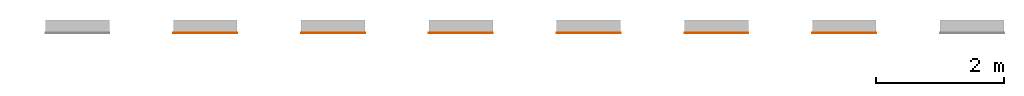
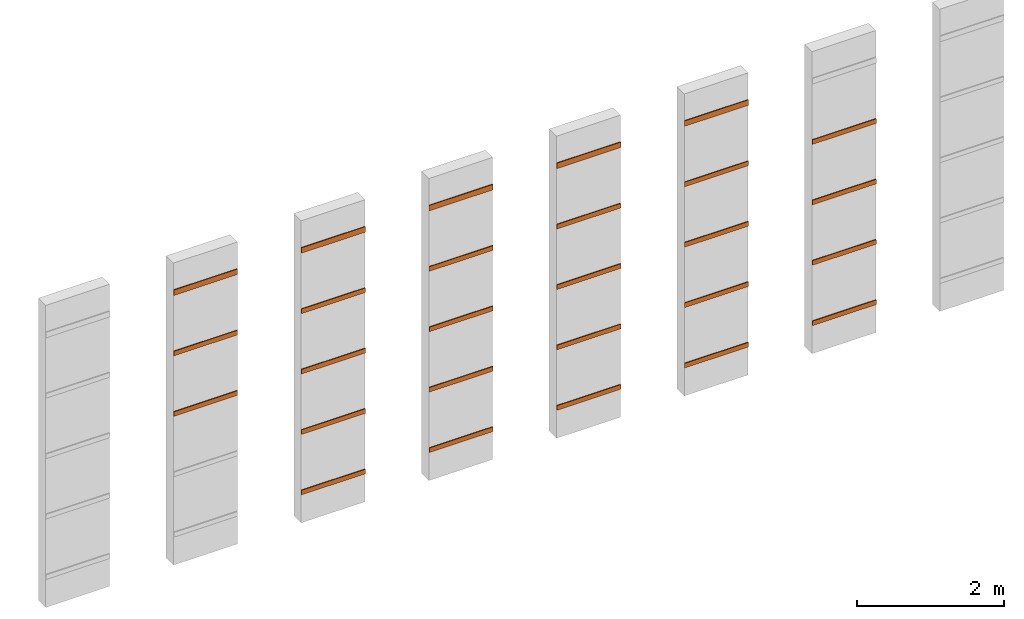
# One storey, part 3 of 4: 27 proxies.
"""IFC2X3 building model written with IfcOpenShell, lengths in millimetres."""

from ifc_helpers import new_model, entity, si_unit, converted_unit, derived_unit, direction, frame, frame_2d, origin, place, context, subcontext, project, spatial, polyline, circle_curve, parameter, trimmed, segment, composite_curve, outline, extrude, type_object, element, save


model = new_model("IFC2X3")

# Units and contexts
model_context = context("Model", 3, precision=0.01, world=origin(), true_north=direction((6.12303176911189e-17, 1.0)))
body_context = subcontext(model_context, "Body", "Model", "MODEL_VIEW")
ifc_project = project(units=[si_unit("LENGTHUNIT", "METRE", prefix="MILLI"), si_unit("AREAUNIT", "SQUARE_METRE"), si_unit("VOLUMEUNIT", "CUBIC_METRE"), converted_unit("PLANEANGLEUNIT", "DEGREE", entity("IfcRatioMeasure", 0.0174532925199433), si_unit("PLANEANGLEUNIT", "RADIAN"), dimensions=[0, 0, 0, 0, 0, 0, 0]), si_unit("MASSUNIT", "GRAM", prefix="KILO"), derived_unit("MASSDENSITYUNIT", [(si_unit("MASSUNIT", "GRAM", prefix="KILO"), 1), (si_unit("LENGTHUNIT", "METRE"), -3)]), derived_unit("MOMENTOFINERTIAUNIT", [(si_unit("LENGTHUNIT", "METRE"), 4)]), si_unit("TIMEUNIT", "SECOND"), si_unit("FREQUENCYUNIT", "HERTZ"), si_unit("THERMODYNAMICTEMPERATUREUNIT", "DEGREE_CELSIUS"), derived_unit("THERMALTRANSMITTANCEUNIT", [(si_unit("MASSUNIT", "GRAM", prefix="KILO"), 1), (si_unit("THERMODYNAMICTEMPERATUREUNIT", "KELVIN"), -1), (si_unit("TIMEUNIT", "SECOND"), -3)]), derived_unit("VOLUMETRICFLOWRATEUNIT", [(si_unit("LENGTHUNIT", "METRE"), 3), (si_unit("TIMEUNIT", "SECOND"), -1)]), si_unit("ELECTRICCURRENTUNIT", "AMPERE"), si_unit("ELECTRICVOLTAGEUNIT", "VOLT"), si_unit("POWERUNIT", "WATT"), si_unit("FORCEUNIT", "NEWTON", prefix="KILO"), si_unit("ILLUMINANCEUNIT", "LUX"), si_unit("LUMINOUSFLUXUNIT", "LUMEN"), si_unit("LUMINOUSINTENSITYUNIT", "CANDELA"), derived_unit("USERDEFINED", [(si_unit("MASSUNIT", "GRAM", prefix="KILO"), -1), (si_unit("LENGTHUNIT", "METRE"), -2), (si_unit("TIMEUNIT", "SECOND"), 3), (si_unit("LUMINOUSFLUXUNIT", "LUMEN"), 1)]), derived_unit("LINEARVELOCITYUNIT", [(si_unit("LENGTHUNIT", "METRE"), 1), (si_unit("TIMEUNIT", "SECOND"), -1)]), si_unit("PRESSUREUNIT", "PASCAL"), derived_unit("USERDEFINED", [(si_unit("LENGTHUNIT", "METRE"), -2), (si_unit("MASSUNIT", "GRAM", prefix="KILO"), 1), (si_unit("TIMEUNIT", "SECOND"), -2)]), derived_unit("LINEARFORCEUNIT", [(si_unit("MASSUNIT", "GRAM", prefix="KILO"), 1), (si_unit("LENGTHUNIT", "METRE"), 1), (si_unit("TIMEUNIT", "SECOND"), -2), (si_unit("LENGTHUNIT", "METRE"), -1)]), derived_unit("PLANARFORCEUNIT", [(si_unit("MASSUNIT", "GRAM", prefix="KILO"), 1), (si_unit("LENGTHUNIT", "METRE"), 1), (si_unit("TIMEUNIT", "SECOND"), -2), (si_unit("LENGTHUNIT", "METRE"), -2)])], contexts=[model_context])

# Site, building, storey
site_placement = place(None, origin())
site = spatial("IfcSite", under=ifc_project, at=site_placement, Name="Default", CompositionType="ELEMENT")
building_placement = place(site_placement, origin())
building = spatial("IfcBuilding", under=site, at=building_placement, CompositionType="ELEMENT")
storey_placement = place(building_placement, origin())
storey = spatial("IfcBuildingStorey", under=building, at=storey_placement, Name="Level 1", CompositionType="ELEMENT", Elevation=0.0)

# Proxies
building_element_proxy_type_1 = type_object("IfcBuildingElementProxyType", Name="Wall Sweep:REVIGRÉS-OMNISTONE-RB-8X90-SOFT-IRON", PredefinedType="NOTDEFINED")
proxy_1_placement = place(storey_placement, origin())
element("IfcBuildingElementProxy", 1, at=proxy_1_placement, inside=storey, type_object=building_element_proxy_type_1, Name="Wall Sweep:REVIGRÉS-OMNISTONE-RB-8X90-SOFT-IRON", ObjectType="Wall Sweep:REVIGRÉS-OMNISTONE-RB-8X90-SOFT-IRON", context=body_context, shape_type="SweptSolid", body=[
    extrude(outline(composite_curve([segment(polyline([(-37.3750000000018, -5.25), (42.625, -5.25)]), True, "CONTINUOUS"), segment(trimmed(circle_curve(frame_2d((32.125, -5.25), x_axis=(0.0, 1.0)), 10.4999999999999), [parameter(270.0)], [parameter(0.0)], True, "PARAMETER"), True, "CONTINUOUS"), segment(polyline([(32.125, 5.25), (-37.3750000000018, 5.25)]), True, "CONTINUOUS"), segment(polyline([(-37.3750000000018, 5.25), (-37.3750000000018, -5.25)]), True, "CONTINUOUS")], self_intersect=False)), frame((15592.0023157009, -6978.36532249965, -15492.2307204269), z_axis=(1.0, 0.0, 0.0), x_axis=(0.0, 0.0, 1.0)), (0.0, 0.0, 1.0), 1000.0),
])
building_element_proxy_type_2 = type_object("IfcBuildingElementProxyType", Name="Wall Sweep:REVIGRÉS-OMNISTONE-RB-8X120-SOFT-IRON", PredefinedType="NOTDEFINED")
proxy_2_placement = place(storey_placement, origin())
element("IfcBuildingElementProxy", 2, at=proxy_2_placement, inside=storey, type_object=building_element_proxy_type_2, Name="Wall Sweep:REVIGRÉS-OMNISTONE-RB-8X120-SOFT-IRON", ObjectType="Wall Sweep:REVIGRÉS-OMNISTONE-RB-8X120-SOFT-IRON", context=body_context, shape_type="SweptSolid", body=[
    extrude(outline(composite_curve([segment(polyline([(-37.5499999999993, -4.90000000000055), (42.4500000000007, -4.90000000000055)]), True, "CONTINUOUS"), segment(trimmed(circle_curve(frame_2d((32.6499999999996, -4.90000000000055), x_axis=(0.0, 1.0)), 9.79999999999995), [parameter(270.0)], [parameter(0.0)], True, "PARAMETER"), True, "CONTINUOUS"), segment(polyline([(32.6499999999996, 4.89999999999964), (-37.5499999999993, 4.89999999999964)]), True, "CONTINUOUS"), segment(polyline([(-37.5499999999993, 4.89999999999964), (-37.5499999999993, -4.90000000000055)]), True, "CONTINUOUS")], self_intersect=False)), frame((15592.0023157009, -6978.01532249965, -14492.0557204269), z_axis=(1.0, 0.0, 0.0), x_axis=(0.0, 0.0, 1.0)), (0.0, 0.0, 1.0), 1000.0),
])
building_element_proxy_type_3 = type_object("IfcBuildingElementProxyType", Name="Wall Sweep:REVIGRÉS-OMNISTONE-RB-9.5X30-SOFT-IRON", PredefinedType="NOTDEFINED")
proxy_3_placement = place(storey_placement, origin())
element("IfcBuildingElementProxy", 3, at=proxy_3_placement, inside=storey, type_object=building_element_proxy_type_3, Name="Wall Sweep:REVIGRÉS-OMNISTONE-RB-9.5X30-SOFT-IRON", ObjectType="Wall Sweep:REVIGRÉS-OMNISTONE-RB-9.5X30-SOFT-IRON", context=body_context, shape_type="SweptSolid", body=[
    extrude(outline(composite_curve([segment(polyline([(-45.0499999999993, -4.90000000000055), (49.9500000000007, -4.90000000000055)]), True, "CONTINUOUS"), segment(trimmed(circle_curve(frame_2d((40.1499999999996, -4.90000000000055), x_axis=(0.0, 1.0)), 9.79999999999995), [parameter(270.0)], [parameter(0.0)], True, "PARAMETER"), True, "CONTINUOUS"), segment(polyline([(40.1499999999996, 4.89999999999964), (-45.0499999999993, 4.89999999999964)]), True, "CONTINUOUS"), segment(polyline([(-45.0499999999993, 4.89999999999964), (-45.0499999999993, -4.90000000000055)]), True, "CONTINUOUS")], self_intersect=False)), frame((15592.0023157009, -6978.01532249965, -13484.5557204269), z_axis=(1.0, 0.0, 0.0), x_axis=(0.0, 0.0, 1.0)), (0.0, 0.0, 1.0), 1000.0),
])
building_element_proxy_type_4 = type_object("IfcBuildingElementProxyType", Name="Wall Sweep:REVIGRÉS-OMNISTONE-RB-8X45-MATTRECT-JET", PredefinedType="NOTDEFINED")
proxy_4_placement = place(storey_placement, origin())
element("IfcBuildingElementProxy", 4, at=proxy_4_placement, inside=storey, type_object=building_element_proxy_type_4, Name="Wall Sweep:REVIGRÉS-OMNISTONE-RB-8X45-MATTRECT-JET", ObjectType="Wall Sweep:REVIGRÉS-OMNISTONE-RB-8X45-MATTRECT-JET", context=body_context, shape_type="SweptSolid", body=[
    extrude(outline(composite_curve([segment(polyline([(-37.375, -5.25), (42.6250000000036, -5.25)]), True, "CONTINUOUS"), segment(trimmed(circle_curve(frame_2d((32.1250000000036, -5.25), x_axis=(0.0, 1.0)), 10.4999999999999), [parameter(270.0)], [parameter(0.0)], True, "PARAMETER"), True, "CONTINUOUS"), segment(polyline([(32.1250000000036, 5.25), (-37.375, 5.25)]), True, "CONTINUOUS"), segment(polyline([(-37.375, 5.25), (-37.375, -5.25)]), True, "CONTINUOUS")], self_intersect=False)), frame((17592.0023157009, -6978.36532249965, -17492.2307204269), z_axis=(1.0, 0.0, 0.0), x_axis=(0.0, 0.0, 1.0)), (0.0, 0.0, 1.0), 1000.0),
])
building_element_proxy_type_5 = type_object("IfcBuildingElementProxyType", Name="Wall Sweep:REVIGRÉS-OMNISTONE-RB-8X60-MATTRECT-JET", PredefinedType="NOTDEFINED")
proxy_5_placement = place(storey_placement, origin())
element("IfcBuildingElementProxy", 5, at=proxy_5_placement, inside=storey, type_object=building_element_proxy_type_5, Name="Wall Sweep:REVIGRÉS-OMNISTONE-RB-8X60-MATTRECT-JET", ObjectType="Wall Sweep:REVIGRÉS-OMNISTONE-RB-8X60-MATTRECT-JET", context=body_context, shape_type="SweptSolid", body=[
    extrude(outline(composite_curve([segment(polyline([(-37.5500000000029, -4.90000000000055), (42.4499999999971, -4.90000000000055)]), True, "CONTINUOUS"), segment(trimmed(circle_curve(frame_2d((32.6499999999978, -4.90000000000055), x_axis=(0.0, 1.0)), 9.79999999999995), [parameter(270.0)], [parameter(0.0)], True, "PARAMETER"), True, "CONTINUOUS"), segment(polyline([(32.6499999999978, 4.89999999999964), (-37.5500000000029, 4.89999999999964)]), True, "CONTINUOUS"), segment(polyline([(-37.5500000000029, 4.89999999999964), (-37.5500000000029, -4.90000000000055)]), True, "CONTINUOUS")], self_intersect=False)), frame((17592.0023157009, -6978.01532249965, -16492.0557204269), z_axis=(1.0, 0.0, 0.0), x_axis=(0.0, 0.0, 1.0)), (0.0, 0.0, 1.0), 1000.0),
])
building_element_proxy_type_6 = type_object("IfcBuildingElementProxyType", Name="Wall Sweep:REVIGRÉS-OMNISTONE-RB-8X90-MATTRECT-JET", PredefinedType="NOTDEFINED")
proxy_6_placement = place(storey_placement, origin())
element("IfcBuildingElementProxy", 6, at=proxy_6_placement, inside=storey, type_object=building_element_proxy_type_6, Name="Wall Sweep:REVIGRÉS-OMNISTONE-RB-8X90-MATTRECT-JET", ObjectType="Wall Sweep:REVIGRÉS-OMNISTONE-RB-8X90-MATTRECT-JET", context=body_context, shape_type="SweptSolid", body=[
    extrude(outline(composite_curve([segment(polyline([(-37.3750000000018, -5.25), (42.625, -5.25)]), True, "CONTINUOUS"), segment(trimmed(circle_curve(frame_2d((32.125, -5.25), x_axis=(0.0, 1.0)), 10.4999999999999), [parameter(270.0)], [parameter(0.0)], True, "PARAMETER"), True, "CONTINUOUS"), segment(polyline([(32.125, 5.25), (-37.3750000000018, 5.25)]), True, "CONTINUOUS"), segment(polyline([(-37.3750000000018, 5.25), (-37.3750000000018, -5.25)]), True, "CONTINUOUS")], self_intersect=False)), frame((17592.0023157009, -6978.36532249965, -15492.2307204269), z_axis=(1.0, 0.0, 0.0), x_axis=(0.0, 0.0, 1.0)), (0.0, 0.0, 1.0), 1000.0),
])
building_element_proxy_type_7 = type_object("IfcBuildingElementProxyType", Name="Wall Sweep:REVIGRÉS-OMNISTONE-RB-8X120-MATTRECT-JET", PredefinedType="NOTDEFINED")
proxy_7_placement = place(storey_placement, origin())
element("IfcBuildingElementProxy", 7, at=proxy_7_placement, inside=storey, type_object=building_element_proxy_type_7, Name="Wall Sweep:REVIGRÉS-OMNISTONE-RB-8X120-MATTRECT-JET", ObjectType="Wall Sweep:REVIGRÉS-OMNISTONE-RB-8X120-MATTRECT-JET", context=body_context, shape_type="SweptSolid", body=[
    extrude(outline(composite_curve([segment(polyline([(-37.5499999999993, -4.90000000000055), (42.4499999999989, -4.90000000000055)]), True, "CONTINUOUS"), segment(trimmed(circle_curve(frame_2d((32.6499999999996, -4.90000000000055), x_axis=(0.0, 1.0)), 9.79999999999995), [parameter(270.0)], [parameter(0.0)], True, "PARAMETER"), True, "CONTINUOUS"), segment(polyline([(32.6499999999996, 4.89999999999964), (-37.5499999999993, 4.89999999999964)]), True, "CONTINUOUS"), segment(polyline([(-37.5499999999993, 4.89999999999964), (-37.5499999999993, -4.90000000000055)]), True, "CONTINUOUS")], self_intersect=False)), frame((17592.0023157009, -6978.01532249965, -14492.0557204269), z_axis=(1.0, 0.0, 0.0), x_axis=(0.0, 0.0, 1.0)), (0.0, 0.0, 1.0), 1000.0),
])
building_element_proxy_type_8 = type_object("IfcBuildingElementProxyType", Name="Wall Sweep:REVIGRÉS-OMNISTONE-RB-9.5X30-MATTRECT-JET", PredefinedType="NOTDEFINED")
proxy_8_placement = place(storey_placement, origin())
element("IfcBuildingElementProxy", 8, at=proxy_8_placement, inside=storey, type_object=building_element_proxy_type_8, Name="Wall Sweep:REVIGRÉS-OMNISTONE-RB-9.5X30-MATTRECT-JET", ObjectType="Wall Sweep:REVIGRÉS-OMNISTONE-RB-9.5X30-MATTRECT-JET", context=body_context, shape_type="SweptSolid", body=[
    extrude(outline(composite_curve([segment(polyline([(-45.0500000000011, -4.90000000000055), (49.9499999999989, -4.90000000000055)]), True, "CONTINUOUS"), segment(trimmed(circle_curve(frame_2d((40.1499999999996, -4.90000000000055), x_axis=(0.0, 1.0)), 9.79999999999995), [parameter(270.0)], [parameter(0.0)], True, "PARAMETER"), True, "CONTINUOUS"), segment(polyline([(40.1499999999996, 4.89999999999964), (-45.0500000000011, 4.89999999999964)]), True, "CONTINUOUS"), segment(polyline([(-45.0500000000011, 4.89999999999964), (-45.0500000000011, -4.90000000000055)]), True, "CONTINUOUS")], self_intersect=False)), frame((17592.0023157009, -6978.01532249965, -13484.5557204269), z_axis=(1.0, 0.0, 0.0), x_axis=(0.0, 0.0, 1.0)), (0.0, 0.0, 1.0), 1000.0),
])
building_element_proxy_type_9 = type_object("IfcBuildingElementProxyType", Name="Wall Sweep:REVIGRÉS-OMNISTONE-RB-8X45-SOFT-JET", PredefinedType="NOTDEFINED")
proxy_9_placement = place(storey_placement, origin())
element("IfcBuildingElementProxy", 9, at=proxy_9_placement, inside=storey, type_object=building_element_proxy_type_9, Name="Wall Sweep:REVIGRÉS-OMNISTONE-RB-8X45-SOFT-JET", ObjectType="Wall Sweep:REVIGRÉS-OMNISTONE-RB-8X45-SOFT-JET", context=body_context, shape_type="SweptSolid", body=[
    extrude(outline(composite_curve([segment(polyline([(-37.375, -5.24999999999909), (42.6250000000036, -5.24999999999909)]), True, "CONTINUOUS"), segment(trimmed(circle_curve(frame_2d((32.1250000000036, -5.24999999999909), x_axis=(0.0, 1.0)), 10.4999999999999), [parameter(270.0)], [parameter(0.0)], True, "PARAMETER"), True, "CONTINUOUS"), segment(polyline([(32.1250000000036, 5.25), (-37.375, 5.25)]), True, "CONTINUOUS"), segment(polyline([(-37.375, 5.25), (-37.375, -5.24999999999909)]), True, "CONTINUOUS")], self_intersect=False)), frame((19592.0023157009, -6978.36532249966, -17492.2307204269), z_axis=(1.0, 0.0, 0.0), x_axis=(0.0, 0.0, 1.0)), (0.0, 0.0, 1.0), 1000.0),
])
building_element_proxy_type_10 = type_object("IfcBuildingElementProxyType", Name="Wall Sweep:REVIGRÉS-OMNISTONE-RB-8X60-SOFT-JET", PredefinedType="NOTDEFINED")
proxy_10_placement = place(storey_placement, origin())
element("IfcBuildingElementProxy", 10, at=proxy_10_placement, inside=storey, type_object=building_element_proxy_type_10, Name="Wall Sweep:REVIGRÉS-OMNISTONE-RB-8X60-SOFT-JET", ObjectType="Wall Sweep:REVIGRÉS-OMNISTONE-RB-8X60-SOFT-JET", context=body_context, shape_type="SweptSolid", body=[
    extrude(outline(composite_curve([segment(polyline([(-37.5500000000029, -4.89999999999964), (42.4499999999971, -4.89999999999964)]), True, "CONTINUOUS"), segment(trimmed(circle_curve(frame_2d((32.6499999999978, -4.89999999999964), x_axis=(0.0, 1.0)), 9.79999999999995), [parameter(270.0)], [parameter(0.0)], True, "PARAMETER"), True, "CONTINUOUS"), segment(polyline([(32.6499999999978, 4.89999999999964), (-37.5500000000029, 4.89999999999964)]), True, "CONTINUOUS"), segment(polyline([(-37.5500000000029, 4.89999999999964), (-37.5500000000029, -4.89999999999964)]), True, "CONTINUOUS")], self_intersect=False)), frame((19592.0023157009, -6978.01532249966, -16492.0557204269), z_axis=(1.0, 0.0, 0.0), x_axis=(0.0, 0.0, 1.0)), (0.0, 0.0, 1.0), 1000.0),
])
building_element_proxy_type_11 = type_object("IfcBuildingElementProxyType", Name="Wall Sweep:REVIGRÉS-OMNISTONE-RB-8X90-SOFT-JET", PredefinedType="NOTDEFINED")
proxy_11_placement = place(storey_placement, origin())
element("IfcBuildingElementProxy", 11, at=proxy_11_placement, inside=storey, type_object=building_element_proxy_type_11, Name="Wall Sweep:REVIGRÉS-OMNISTONE-RB-8X90-SOFT-JET", ObjectType="Wall Sweep:REVIGRÉS-OMNISTONE-RB-8X90-SOFT-JET", context=body_context, shape_type="SweptSolid", body=[
    extrude(outline(composite_curve([segment(polyline([(-37.3750000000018, -5.24999999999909), (42.625, -5.24999999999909)]), True, "CONTINUOUS"), segment(trimmed(circle_curve(frame_2d((32.125, -5.24999999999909), x_axis=(0.0, 1.0)), 10.4999999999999), [parameter(270.0)], [parameter(0.0)], True, "PARAMETER"), True, "CONTINUOUS"), segment(polyline([(32.125, 5.25), (-37.3750000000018, 5.25)]), True, "CONTINUOUS"), segment(polyline([(-37.3750000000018, 5.25), (-37.3750000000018, -5.24999999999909)]), True, "CONTINUOUS")], self_intersect=False)), frame((19592.0023157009, -6978.36532249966, -15492.2307204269), z_axis=(1.0, 0.0, 0.0), x_axis=(0.0, 0.0, 1.0)), (0.0, 0.0, 1.0), 1000.0),
])
building_element_proxy_type_12 = type_object("IfcBuildingElementProxyType", Name="Wall Sweep:REVIGRÉS-OMNISTONE-RB-8X120-SOFT-JET", PredefinedType="NOTDEFINED")
proxy_12_placement = place(storey_placement, origin())
element("IfcBuildingElementProxy", 12, at=proxy_12_placement, inside=storey, type_object=building_element_proxy_type_12, Name="Wall Sweep:REVIGRÉS-OMNISTONE-RB-8X120-SOFT-JET", ObjectType="Wall Sweep:REVIGRÉS-OMNISTONE-RB-8X120-SOFT-JET", context=body_context, shape_type="SweptSolid", body=[
    extrude(outline(composite_curve([segment(polyline([(-37.5499999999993, -4.89999999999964), (42.4499999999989, -4.89999999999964)]), True, "CONTINUOUS"), segment(trimmed(circle_curve(frame_2d((32.6499999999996, -4.89999999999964), x_axis=(0.0, 1.0)), 9.79999999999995), [parameter(270.0)], [parameter(0.0)], True, "PARAMETER"), True, "CONTINUOUS"), segment(polyline([(32.6499999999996, 4.89999999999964), (-37.5499999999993, 4.89999999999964)]), True, "CONTINUOUS"), segment(polyline([(-37.5499999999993, 4.89999999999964), (-37.5499999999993, -4.89999999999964)]), True, "CONTINUOUS")], self_intersect=False)), frame((19592.0023157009, -6978.01532249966, -14492.0557204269), z_axis=(1.0, 0.0, 0.0), x_axis=(0.0, 0.0, 1.0)), (0.0, 0.0, 1.0), 1000.0),
])
building_element_proxy_type_13 = type_object("IfcBuildingElementProxyType", Name="Wall Sweep:REVIGRÉS-OMNISTONE-RB-9.5X30-SOFT-JET", PredefinedType="NOTDEFINED")
proxy_13_placement = place(storey_placement, origin())
element("IfcBuildingElementProxy", 13, at=proxy_13_placement, inside=storey, type_object=building_element_proxy_type_13, Name="Wall Sweep:REVIGRÉS-OMNISTONE-RB-9.5X30-SOFT-JET", ObjectType="Wall Sweep:REVIGRÉS-OMNISTONE-RB-9.5X30-SOFT-JET", context=body_context, shape_type="SweptSolid", body=[
    extrude(outline(composite_curve([segment(polyline([(-45.0500000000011, -4.89999999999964), (49.9499999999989, -4.89999999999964)]), True, "CONTINUOUS"), segment(trimmed(circle_curve(frame_2d((40.1499999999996, -4.89999999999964), x_axis=(0.0, 1.0)), 9.79999999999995), [parameter(270.0)], [parameter(0.0)], True, "PARAMETER"), True, "CONTINUOUS"), segment(polyline([(40.1499999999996, 4.89999999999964), (-45.0500000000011, 4.89999999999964)]), True, "CONTINUOUS"), segment(polyline([(-45.0500000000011, 4.89999999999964), (-45.0500000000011, -4.89999999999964)]), True, "CONTINUOUS")], self_intersect=False)), frame((19592.0023157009, -6978.01532249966, -13484.5557204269), z_axis=(1.0, 0.0, 0.0), x_axis=(0.0, 0.0, 1.0)), (0.0, 0.0, 1.0), 1000.0),
])
building_element_proxy_type_14 = type_object("IfcBuildingElementProxyType", Name="Wall Sweep:REVIGRÉS-OMNISTONE-RB-8X45-MATTRECT-PLATINA", PredefinedType="NOTDEFINED")
proxy_14_placement = place(storey_placement, origin())
element("IfcBuildingElementProxy", 14, at=proxy_14_placement, inside=storey, type_object=building_element_proxy_type_14, Name="Wall Sweep:REVIGRÉS-OMNISTONE-RB-8X45-MATTRECT-PLATINA", ObjectType="Wall Sweep:REVIGRÉS-OMNISTONE-RB-8X45-MATTRECT-PLATINA", context=body_context, shape_type="SweptSolid", body=[
    extrude(outline(composite_curve([segment(polyline([(-37.375, -5.25), (42.6250000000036, -5.25)]), True, "CONTINUOUS"), segment(trimmed(circle_curve(frame_2d((32.1250000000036, -5.25), x_axis=(0.0, 1.0)), 10.4999999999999), [parameter(270.0)], [parameter(0.0)], True, "PARAMETER"), True, "CONTINUOUS"), segment(polyline([(32.1250000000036, 5.25), (-37.375, 5.25)]), True, "CONTINUOUS"), segment(polyline([(-37.375, 5.25), (-37.375, -5.25)]), True, "CONTINUOUS")], self_intersect=False)), frame((21592.0023157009, -6978.36532249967, -17492.2307204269), z_axis=(1.0, 0.0, 0.0), x_axis=(0.0, 0.0, 1.0)), (0.0, 0.0, 1.0), 1000.0),
])
building_element_proxy_type_15 = type_object("IfcBuildingElementProxyType", Name="Wall Sweep:REVIGRÉS-OMNISTONE-RB-8X60-MATTRECT-PLATINA", PredefinedType="NOTDEFINED")
proxy_15_placement = place(storey_placement, origin())
element("IfcBuildingElementProxy", 15, at=proxy_15_placement, inside=storey, type_object=building_element_proxy_type_15, Name="Wall Sweep:REVIGRÉS-OMNISTONE-RB-8X60-MATTRECT-PLATINA", ObjectType="Wall Sweep:REVIGRÉS-OMNISTONE-RB-8X60-MATTRECT-PLATINA", context=body_context, shape_type="SweptSolid", body=[
    extrude(outline(composite_curve([segment(polyline([(-37.5500000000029, -4.89999999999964), (42.4499999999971, -4.89999999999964)]), True, "CONTINUOUS"), segment(trimmed(circle_curve(frame_2d((32.6499999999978, -4.89999999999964), x_axis=(0.0, 1.0)), 9.79999999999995), [parameter(270.0)], [parameter(0.0)], True, "PARAMETER"), True, "CONTINUOUS"), segment(polyline([(32.6499999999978, 4.89999999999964), (-37.5500000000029, 4.89999999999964)]), True, "CONTINUOUS"), segment(polyline([(-37.5500000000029, 4.89999999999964), (-37.5500000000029, -4.89999999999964)]), True, "CONTINUOUS")], self_intersect=False)), frame((21592.0023157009, -6978.01532249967, -16492.0557204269), z_axis=(1.0, 0.0, 0.0), x_axis=(0.0, 0.0, 1.0)), (0.0, 0.0, 1.0), 1000.0),
])
building_element_proxy_type_16 = type_object("IfcBuildingElementProxyType", Name="Wall Sweep:REVIGRÉS-OMNISTONE-RB-8X90-MATTRECT-PLATINA", PredefinedType="NOTDEFINED")
proxy_16_placement = place(storey_placement, origin())
element("IfcBuildingElementProxy", 16, at=proxy_16_placement, inside=storey, type_object=building_element_proxy_type_16, Name="Wall Sweep:REVIGRÉS-OMNISTONE-RB-8X90-MATTRECT-PLATINA", ObjectType="Wall Sweep:REVIGRÉS-OMNISTONE-RB-8X90-MATTRECT-PLATINA", context=body_context, shape_type="SweptSolid", body=[
    extrude(outline(composite_curve([segment(polyline([(-37.3750000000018, -5.25), (42.625, -5.25)]), True, "CONTINUOUS"), segment(trimmed(circle_curve(frame_2d((32.125, -5.25), x_axis=(0.0, 1.0)), 10.4999999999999), [parameter(270.0)], [parameter(0.0)], True, "PARAMETER"), True, "CONTINUOUS"), segment(polyline([(32.125, 5.25), (-37.3750000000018, 5.25)]), True, "CONTINUOUS"), segment(polyline([(-37.3750000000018, 5.25), (-37.3750000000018, -5.25)]), True, "CONTINUOUS")], self_intersect=False)), frame((21592.0023157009, -6978.36532249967, -15492.2307204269), z_axis=(1.0, 0.0, 0.0), x_axis=(0.0, 0.0, 1.0)), (0.0, 0.0, 1.0), 1000.0),
])
building_element_proxy_type_17 = type_object("IfcBuildingElementProxyType", Name="Wall Sweep:REVIGRÉS-OMNISTONE-RB-8X120-MATTRECT-PLATINA", PredefinedType="NOTDEFINED")
proxy_17_placement = place(storey_placement, origin())
element("IfcBuildingElementProxy", 17, at=proxy_17_placement, inside=storey, type_object=building_element_proxy_type_17, Name="Wall Sweep:REVIGRÉS-OMNISTONE-RB-8X120-MATTRECT-PLATINA", ObjectType="Wall Sweep:REVIGRÉS-OMNISTONE-RB-8X120-MATTRECT-PLATINA", context=body_context, shape_type="SweptSolid", body=[
    extrude(outline(composite_curve([segment(polyline([(-37.5499999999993, -4.89999999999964), (42.4500000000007, -4.89999999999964)]), True, "CONTINUOUS"), segment(trimmed(circle_curve(frame_2d((32.6499999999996, -4.89999999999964), x_axis=(0.0, 1.0)), 9.79999999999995), [parameter(270.0)], [parameter(0.0)], True, "PARAMETER"), True, "CONTINUOUS"), segment(polyline([(32.6499999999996, 4.89999999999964), (-37.5499999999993, 4.89999999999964)]), True, "CONTINUOUS"), segment(polyline([(-37.5499999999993, 4.89999999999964), (-37.5499999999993, -4.89999999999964)]), True, "CONTINUOUS")], self_intersect=False)), frame((21592.0023157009, -6978.01532249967, -14492.0557204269), z_axis=(1.0, 0.0, 0.0), x_axis=(0.0, 0.0, 1.0)), (0.0, 0.0, 1.0), 1000.0),
])
building_element_proxy_type_18 = type_object("IfcBuildingElementProxyType", Name="Wall Sweep:REVIGRÉS-OMNISTONE-RB-9.5X30-MATTRECT-PLATINA", PredefinedType="NOTDEFINED")
proxy_18_placement = place(storey_placement, origin())
element("IfcBuildingElementProxy", 18, at=proxy_18_placement, inside=storey, type_object=building_element_proxy_type_18, Name="Wall Sweep:REVIGRÉS-OMNISTONE-RB-9.5X30-MATTRECT-PLATINA", ObjectType="Wall Sweep:REVIGRÉS-OMNISTONE-RB-9.5X30-MATTRECT-PLATINA", context=body_context, shape_type="SweptSolid", body=[
    extrude(outline(composite_curve([segment(polyline([(-45.0499999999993, -4.89999999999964), (49.9500000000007, -4.89999999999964)]), True, "CONTINUOUS"), segment(trimmed(circle_curve(frame_2d((40.1499999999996, -4.89999999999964), x_axis=(0.0, 1.0)), 9.79999999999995), [parameter(270.0)], [parameter(0.0)], True, "PARAMETER"), True, "CONTINUOUS"), segment(polyline([(40.1499999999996, 4.89999999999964), (-45.0499999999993, 4.89999999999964)]), True, "CONTINUOUS"), segment(polyline([(-45.0499999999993, 4.89999999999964), (-45.0499999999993, -4.89999999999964)]), True, "CONTINUOUS")], self_intersect=False)), frame((21592.0023157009, -6978.01532249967, -13484.5557204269), z_axis=(1.0, 0.0, 0.0), x_axis=(0.0, 0.0, 1.0)), (0.0, 0.0, 1.0), 1000.0),
])
building_element_proxy_type_19 = type_object("IfcBuildingElementProxyType", Name="Wall Sweep:REVIGRÉS-OMNISTONE-RB-8X45-SOFT-PLATINA", PredefinedType="NOTDEFINED")
proxy_19_placement = place(storey_placement, origin())
element("IfcBuildingElementProxy", 19, at=proxy_19_placement, inside=storey, type_object=building_element_proxy_type_19, Name="Wall Sweep:REVIGRÉS-OMNISTONE-RB-8X45-SOFT-PLATINA", ObjectType="Wall Sweep:REVIGRÉS-OMNISTONE-RB-8X45-SOFT-PLATINA", context=body_context, shape_type="SweptSolid", body=[
    extrude(outline(composite_curve([segment(polyline([(-37.375, -5.25), (42.6250000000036, -5.25)]), True, "CONTINUOUS"), segment(trimmed(circle_curve(frame_2d((32.1250000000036, -5.25), x_axis=(0.0, 1.0)), 10.4999999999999), [parameter(270.0)], [parameter(0.0)], True, "PARAMETER"), True, "CONTINUOUS"), segment(polyline([(32.1250000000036, 5.25), (-37.375, 5.25)]), True, "CONTINUOUS"), segment(polyline([(-37.375, 5.25), (-37.375, -5.25)]), True, "CONTINUOUS")], self_intersect=False)), frame((23592.0023157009, -6978.36532249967, -17492.2307204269), z_axis=(1.0, 0.0, 0.0), x_axis=(0.0, 0.0, 1.0)), (0.0, 0.0, 1.0), 1000.0),
])
building_element_proxy_type_20 = type_object("IfcBuildingElementProxyType", Name="Wall Sweep:REVIGRÉS-OMNISTONE-RB-8X60-SOFT-PLATINA", PredefinedType="NOTDEFINED")
proxy_20_placement = place(storey_placement, origin())
element("IfcBuildingElementProxy", 20, at=proxy_20_placement, inside=storey, type_object=building_element_proxy_type_20, Name="Wall Sweep:REVIGRÉS-OMNISTONE-RB-8X60-SOFT-PLATINA", ObjectType="Wall Sweep:REVIGRÉS-OMNISTONE-RB-8X60-SOFT-PLATINA", context=body_context, shape_type="SweptSolid", body=[
    extrude(outline(composite_curve([segment(polyline([(-37.5500000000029, -4.89999999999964), (42.4499999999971, -4.89999999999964)]), True, "CONTINUOUS"), segment(trimmed(circle_curve(frame_2d((32.6499999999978, -4.89999999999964), x_axis=(0.0, 1.0)), 9.79999999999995), [parameter(270.0)], [parameter(0.0)], True, "PARAMETER"), True, "CONTINUOUS"), segment(polyline([(32.6499999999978, 4.90000000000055), (-37.5500000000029, 4.90000000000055)]), True, "CONTINUOUS"), segment(polyline([(-37.5500000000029, 4.90000000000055), (-37.5500000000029, -4.89999999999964)]), True, "CONTINUOUS")], self_intersect=False)), frame((23592.0023157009, -6978.01532249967, -16492.0557204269), z_axis=(1.0, 0.0, 0.0), x_axis=(0.0, 0.0, 1.0)), (0.0, 0.0, 1.0), 1000.0),
])
building_element_proxy_type_21 = type_object("IfcBuildingElementProxyType", Name="Wall Sweep:REVIGRÉS-OMNISTONE-RB-8X90-SOFT-PLATINA", PredefinedType="NOTDEFINED")
proxy_21_placement = place(storey_placement, origin())
element("IfcBuildingElementProxy", 21, at=proxy_21_placement, inside=storey, type_object=building_element_proxy_type_21, Name="Wall Sweep:REVIGRÉS-OMNISTONE-RB-8X90-SOFT-PLATINA", ObjectType="Wall Sweep:REVIGRÉS-OMNISTONE-RB-8X90-SOFT-PLATINA", context=body_context, shape_type="SweptSolid", body=[
    extrude(outline(composite_curve([segment(polyline([(-37.3750000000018, -5.25), (42.625, -5.25)]), True, "CONTINUOUS"), segment(trimmed(circle_curve(frame_2d((32.125, -5.25), x_axis=(0.0, 1.0)), 10.4999999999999), [parameter(270.0)], [parameter(0.0)], True, "PARAMETER"), True, "CONTINUOUS"), segment(polyline([(32.125, 5.25), (-37.3750000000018, 5.25)]), True, "CONTINUOUS"), segment(polyline([(-37.3750000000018, 5.25), (-37.3750000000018, -5.25)]), True, "CONTINUOUS")], self_intersect=False)), frame((23592.0023157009, -6978.36532249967, -15492.2307204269), z_axis=(1.0, 0.0, 0.0), x_axis=(0.0, 0.0, 1.0)), (0.0, 0.0, 1.0), 1000.0),
])
building_element_proxy_type_22 = type_object("IfcBuildingElementProxyType", Name="Wall Sweep:REVIGRÉS-OMNISTONE-RB-8X120-SOFT-PLATINA", PredefinedType="NOTDEFINED")
proxy_22_placement = place(storey_placement, origin())
element("IfcBuildingElementProxy", 22, at=proxy_22_placement, inside=storey, type_object=building_element_proxy_type_22, Name="Wall Sweep:REVIGRÉS-OMNISTONE-RB-8X120-SOFT-PLATINA", ObjectType="Wall Sweep:REVIGRÉS-OMNISTONE-RB-8X120-SOFT-PLATINA", context=body_context, shape_type="SweptSolid", body=[
    extrude(outline(composite_curve([segment(polyline([(-37.5499999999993, -4.89999999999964), (42.4499999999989, -4.89999999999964)]), True, "CONTINUOUS"), segment(trimmed(circle_curve(frame_2d((32.6499999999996, -4.89999999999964), x_axis=(0.0, 1.0)), 9.79999999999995), [parameter(270.0)], [parameter(0.0)], True, "PARAMETER"), True, "CONTINUOUS"), segment(polyline([(32.6499999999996, 4.90000000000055), (-37.5499999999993, 4.90000000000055)]), True, "CONTINUOUS"), segment(polyline([(-37.5499999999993, 4.90000000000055), (-37.5499999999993, -4.89999999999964)]), True, "CONTINUOUS")], self_intersect=False)), frame((23592.0023157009, -6978.01532249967, -14492.0557204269), z_axis=(1.0, 0.0, 0.0), x_axis=(0.0, 0.0, 1.0)), (0.0, 0.0, 1.0), 1000.0),
])
building_element_proxy_type_23 = type_object("IfcBuildingElementProxyType", Name="Wall Sweep:REVIGRÉS-OMNISTONE-RB-9.5X30-SOFT-PLATINA", PredefinedType="NOTDEFINED")
proxy_23_placement = place(storey_placement, origin())
element("IfcBuildingElementProxy", 23, at=proxy_23_placement, inside=storey, type_object=building_element_proxy_type_23, Name="Wall Sweep:REVIGRÉS-OMNISTONE-RB-9.5X30-SOFT-PLATINA", ObjectType="Wall Sweep:REVIGRÉS-OMNISTONE-RB-9.5X30-SOFT-PLATINA", context=body_context, shape_type="SweptSolid", body=[
    extrude(outline(composite_curve([segment(polyline([(-45.0500000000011, -4.89999999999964), (49.9499999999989, -4.89999999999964)]), True, "CONTINUOUS"), segment(trimmed(circle_curve(frame_2d((40.1499999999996, -4.89999999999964), x_axis=(0.0, 1.0)), 9.79999999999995), [parameter(270.0)], [parameter(0.0)], True, "PARAMETER"), True, "CONTINUOUS"), segment(polyline([(40.1499999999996, 4.90000000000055), (-45.0500000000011, 4.90000000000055)]), True, "CONTINUOUS"), segment(polyline([(-45.0500000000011, 4.90000000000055), (-45.0500000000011, -4.89999999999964)]), True, "CONTINUOUS")], self_intersect=False)), frame((23592.0023157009, -6978.01532249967, -13484.5557204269), z_axis=(1.0, 0.0, 0.0), x_axis=(0.0, 0.0, 1.0)), (0.0, 0.0, 1.0), 1000.0),
])
building_element_proxy_type_24 = type_object("IfcBuildingElementProxyType", Name="Wall Sweep:REVIGRÉS-OMNISTONE-RB-8X45-MATTRECT-ROPE", PredefinedType="NOTDEFINED")
proxy_24_placement = place(storey_placement, origin())
element("IfcBuildingElementProxy", 24, at=proxy_24_placement, inside=storey, type_object=building_element_proxy_type_24, Name="Wall Sweep:REVIGRÉS-OMNISTONE-RB-8X45-MATTRECT-ROPE", ObjectType="Wall Sweep:REVIGRÉS-OMNISTONE-RB-8X45-MATTRECT-ROPE", context=body_context, shape_type="SweptSolid", body=[
    extrude(outline(composite_curve([segment(polyline([(-37.375, -5.25), (42.6250000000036, -5.25)]), True, "CONTINUOUS"), segment(trimmed(circle_curve(frame_2d((32.1250000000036, -5.25), x_axis=(0.0, 1.0)), 10.4999999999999), [parameter(270.0)], [parameter(0.0)], True, "PARAMETER"), True, "CONTINUOUS"), segment(polyline([(32.1250000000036, 5.25), (-37.375, 5.25)]), True, "CONTINUOUS"), segment(polyline([(-37.375, 5.25), (-37.375, -5.25)]), True, "CONTINUOUS")], self_intersect=False)), frame((25592.0023157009, -6978.36532249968, -17492.2307204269), z_axis=(1.0, 0.0, 0.0), x_axis=(0.0, 0.0, 1.0)), (0.0, 0.0, 1.0), 1000.0),
])
building_element_proxy_type_25 = type_object("IfcBuildingElementProxyType", Name="Wall Sweep:REVIGRÉS-OMNISTONE-RB-8X60-MATTRECT-ROPE", PredefinedType="NOTDEFINED")
proxy_25_placement = place(storey_placement, origin())
element("IfcBuildingElementProxy", 25, at=proxy_25_placement, inside=storey, type_object=building_element_proxy_type_25, Name="Wall Sweep:REVIGRÉS-OMNISTONE-RB-8X60-MATTRECT-ROPE", ObjectType="Wall Sweep:REVIGRÉS-OMNISTONE-RB-8X60-MATTRECT-ROPE", context=body_context, shape_type="SweptSolid", body=[
    extrude(outline(composite_curve([segment(polyline([(-37.5500000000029, -4.89999999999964), (42.4499999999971, -4.89999999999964)]), True, "CONTINUOUS"), segment(trimmed(circle_curve(frame_2d((32.6499999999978, -4.89999999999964), x_axis=(0.0, 1.0)), 9.79999999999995), [parameter(270.0)], [parameter(0.0)], True, "PARAMETER"), True, "CONTINUOUS"), segment(polyline([(32.6499999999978, 4.90000000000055), (-37.5500000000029, 4.90000000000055)]), True, "CONTINUOUS"), segment(polyline([(-37.5500000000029, 4.90000000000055), (-37.5500000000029, -4.89999999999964)]), True, "CONTINUOUS")], self_intersect=False)), frame((25592.0023157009, -6978.01532249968, -16492.0557204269), z_axis=(1.0, 0.0, 0.0), x_axis=(0.0, 0.0, 1.0)), (0.0, 0.0, 1.0), 1000.0),
])
building_element_proxy_type_26 = type_object("IfcBuildingElementProxyType", Name="Wall Sweep:REVIGRÉS-OMNISTONE-RB-8X90-MATTRECT-ROPE", PredefinedType="NOTDEFINED")
proxy_26_placement = place(storey_placement, origin())
element("IfcBuildingElementProxy", 26, at=proxy_26_placement, inside=storey, type_object=building_element_proxy_type_26, Name="Wall Sweep:REVIGRÉS-OMNISTONE-RB-8X90-MATTRECT-ROPE", ObjectType="Wall Sweep:REVIGRÉS-OMNISTONE-RB-8X90-MATTRECT-ROPE", context=body_context, shape_type="SweptSolid", body=[
    extrude(outline(composite_curve([segment(polyline([(-37.3750000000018, -5.25), (42.625, -5.25)]), True, "CONTINUOUS"), segment(trimmed(circle_curve(frame_2d((32.125, -5.25), x_axis=(0.0, 1.0)), 10.4999999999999), [parameter(270.0)], [parameter(0.0)], True, "PARAMETER"), True, "CONTINUOUS"), segment(polyline([(32.125, 5.25), (-37.3750000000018, 5.25)]), True, "CONTINUOUS"), segment(polyline([(-37.3750000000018, 5.25), (-37.3750000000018, -5.25)]), True, "CONTINUOUS")], self_intersect=False)), frame((25592.0023157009, -6978.36532249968, -15492.2307204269), z_axis=(1.0, 0.0, 0.0), x_axis=(0.0, 0.0, 1.0)), (0.0, 0.0, 1.0), 1000.0),
])
building_element_proxy_type_27 = type_object("IfcBuildingElementProxyType", Name="Wall Sweep:REVIGRÉS-OMNISTONE-RB-8X120-MATTRECT-ROPE", PredefinedType="NOTDEFINED")
proxy_27_placement = place(storey_placement, origin())
element("IfcBuildingElementProxy", 27, at=proxy_27_placement, inside=storey, type_object=building_element_proxy_type_27, Name="Wall Sweep:REVIGRÉS-OMNISTONE-RB-8X120-MATTRECT-ROPE", ObjectType="Wall Sweep:REVIGRÉS-OMNISTONE-RB-8X120-MATTRECT-ROPE", context=body_context, shape_type="SweptSolid", body=[
    extrude(outline(composite_curve([segment(polyline([(-37.5499999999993, -4.89999999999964), (42.4499999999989, -4.89999999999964)]), True, "CONTINUOUS"), segment(trimmed(circle_curve(frame_2d((32.6499999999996, -4.89999999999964), x_axis=(0.0, 1.0)), 9.79999999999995), [parameter(270.0)], [parameter(0.0)], True, "PARAMETER"), True, "CONTINUOUS"), segment(polyline([(32.6499999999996, 4.90000000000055), (-37.5499999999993, 4.90000000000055)]), True, "CONTINUOUS"), segment(polyline([(-37.5499999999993, 4.90000000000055), (-37.5499999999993, -4.89999999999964)]), True, "CONTINUOUS")], self_intersect=False)), frame((25592.0023157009, -6978.01532249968, -14492.0557204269), z_axis=(1.0, 0.0, 0.0), x_axis=(0.0, 0.0, 1.0)), (0.0, 0.0, 1.0), 1000.0),
])

save(model, "model.ifc")
